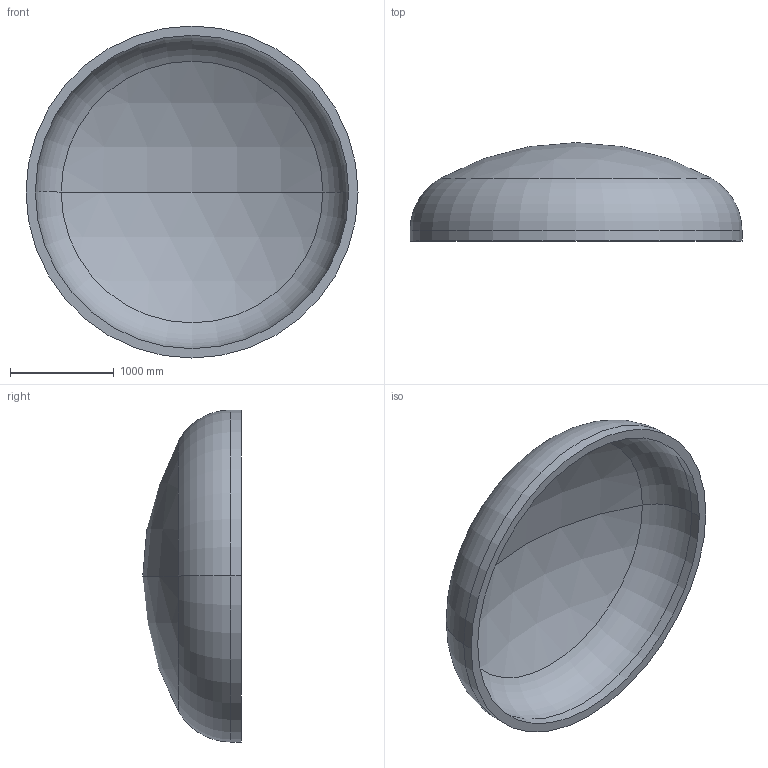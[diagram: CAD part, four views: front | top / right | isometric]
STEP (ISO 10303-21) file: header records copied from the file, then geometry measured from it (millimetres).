
FILE_DESCRIPTION (( 'STEP AP203' ), '1' );
FILE_NAME ('DIN 28013 Korbbogenform_-_Boden DIN 28013 - 3200 x 100 - I - s=90.step', '2016-07-01T18:55:13', ( '' ), ( '' ), 'SwSTEP 2.0', 'SolidWorks 2013', '' );
FILE_SCHEMA (( 'CONFIG_CONTROL_DESIGN' ));
Length unit declared in the file: millimetre
Products named in the file (1): DIN 28013 Korbbogenform_-_Boden DIN 28013 - 3200 x 100 - I - s=90
Bounding box: 3200 x 948.75 x 3200 mm (x, y, z)
Volume: 1053098183.2 mm3; surface area: 24298470.4 mm2
Topology: 1 solids, 1 shells, 13 faces, 24 edges, 14 vertices
Faces by surface type: torus 4, cylinder 4, sphere 4, plane 1
Entity records: 407 total; most frequent: DIRECTION 72, CARTESIAN_POINT 52, ORIENTED_EDGE 48, AXIS2_PLACEMENT_3D 34, EDGE_CURVE 24, CIRCLE 20, EDGE_LOOP 14, VERTEX_POINT 14
